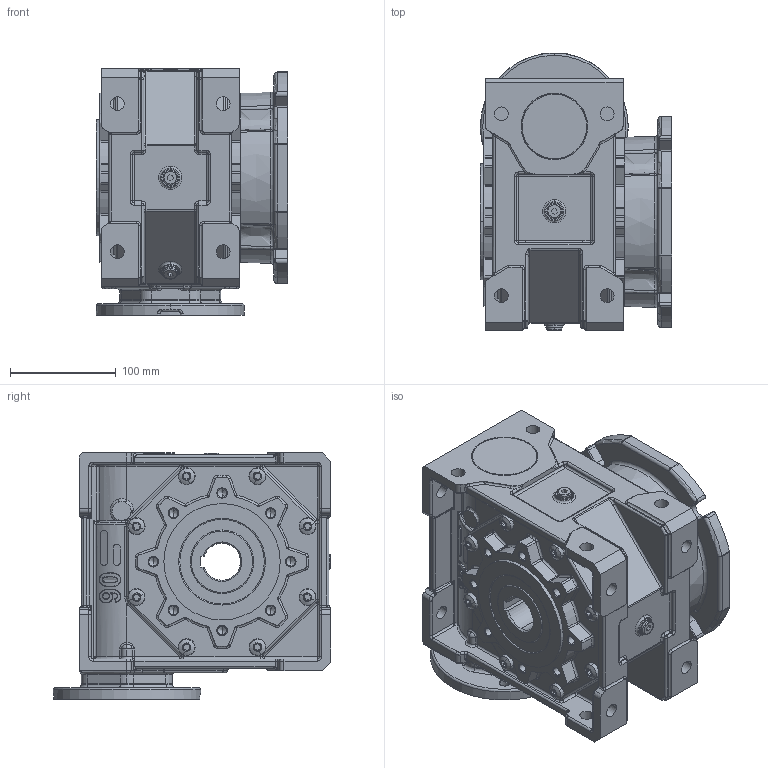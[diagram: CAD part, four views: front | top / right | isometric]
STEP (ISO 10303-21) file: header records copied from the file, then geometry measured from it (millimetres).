
FILE_DESCRIPTION (( 'STEP AP214' ), '1' );
FILE_NAME ('MKT90-FFL-90-115.STEP', '2006-05-10T10:35:19', ( '' ), ( '' ), 'SwSTEP 2.0', 'SolidWorks 2004146', '' );
FILE_SCHEMA (( 'AUTOMOTIVE_DESIGN' ));
Products named in the file (6): pøíruba115 d72 MRT80a_Výchozí; Pøíruba FF MKT 90_Výchozí; D6912_Šroub DIN 6912 - M10x25; Skrin MKT90_MKT90 AP90; D6912_Šroub DIN 6912 - M6x25; MKT90-FFL-90-115
Assembly tree (13 placements, depth 2):
  MKT90-FFL-90-115
    D6912_Šroub DIN 6912 - M10x25  x4
    Skrin MKT90_MKT90 AP90
    pøíruba115 d72 MRT80a_Výchozí
    D6912_Šroub DIN 6912 - M6x25  x6
    Pøíruba FF MKT 90_Výchozí
Bounding box: 181 x 262.81 x 233 mm (x, y, z)
Volume: 5258666.1 mm3; surface area: 470990.3 mm2
Topology: 13 solids, 13 shells, 3086 faces, 7334 edges, 4155 vertices
Faces by surface type: cylinder 1107, plane 572, torus 539, bspline 417, cone 260, sphere 191
Entity records: 341572 total; most frequent: CARTESIAN_POINT 274709, DIRECTION 13592, ORIENTED_EDGE 13080, EDGE_CURVE 6540, AXIS2_PLACEMENT_3D 5718, VERTEX_POINT 3869, CIRCLE 3329, EDGE_LOOP 2961
